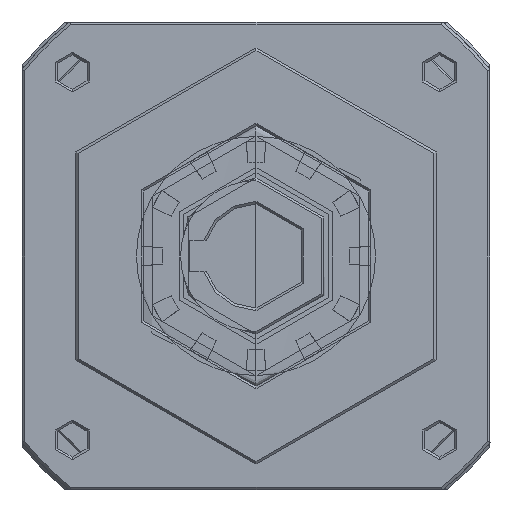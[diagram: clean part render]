
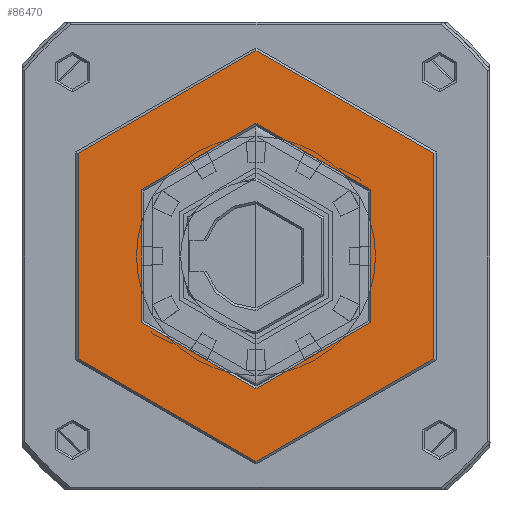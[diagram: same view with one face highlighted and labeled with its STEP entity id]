
A CAD part, left-side view. The second image highlights one B-rep face of the part: STEP entity #86470.
In plain terms, the highlighted planar face has unit normal (-1, 0, 0).
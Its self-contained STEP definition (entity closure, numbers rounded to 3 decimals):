
#1799 = FACE_BOUND ( 'NONE', #32390, .T. ) ;
#3466 = ORIENTED_EDGE ( 'NONE', *, *, #87627, .T. ) ;
#15089 = DIRECTION ( 'NONE',  ( 1., 0., 0. ) ) ;
#15307 = VERTEX_POINT ( 'NONE', #83465 ) ;
#15360 = DIRECTION ( 'NONE',  ( 0., 0., 1. ) ) ;
#17445 = DIRECTION ( 'NONE',  ( 0., 0., -1. ) ) ;
#21182 = VERTEX_POINT ( 'NONE', #49345 ) ;
#21690 = ORIENTED_EDGE ( 'NONE', *, *, #45684, .T. ) ;
#23059 = DIRECTION ( 'NONE',  ( 0., 0., 1. ) ) ;
#25922 = CARTESIAN_POINT ( 'NONE',  ( 0., 0., -25.5 ) ) ;
#30158 = DIRECTION ( 'NONE',  ( 1., 0., 0. ) ) ;
#30341 = DIRECTION ( 'NONE',  ( 1., 0., 0. ) ) ;
#31393 = AXIS2_PLACEMENT_3D ( 'NONE', #55864, #15089, #15360 ) ;
#32390 = EDGE_LOOP ( 'NONE', ( #3466, #21690 ) ) ;
#33800 = EDGE_CURVE ( 'NONE', #15307, #73588, #86429, .T. ) ;
#34127 = CIRCLE ( 'NONE', #48007, 39.5 ) ;
#34340 = ORIENTED_EDGE ( 'NONE', *, *, #33800, .F. ) ;
#37394 = CARTESIAN_POINT ( 'NONE',  ( 0., 0., 0. ) ) ;
#37898 = CARTESIAN_POINT ( 'NONE',  ( 0., 0., 0. ) ) ;
#41276 = EDGE_CURVE ( 'NONE', #73588, #15307, #34127, .T. ) ;
#41888 = DIRECTION ( 'NONE',  ( 0., 0., -1. ) ) ;
#44762 = CARTESIAN_POINT ( 'NONE',  ( 0., 0., 0. ) ) ;
#45684 = EDGE_CURVE ( 'NONE', #82681, #21182, #52877, .T. ) ;
#48007 = AXIS2_PLACEMENT_3D ( 'NONE', #37898, #30341, #57775 ) ;
#49345 = CARTESIAN_POINT ( 'NONE',  ( 0., 0., 25.5 ) ) ;
#51507 = FACE_OUTER_BOUND ( 'NONE', #72904, .T. ) ;
#52877 = CIRCLE ( 'NONE', #58055, 25.5 ) ;
#55864 = CARTESIAN_POINT ( 'NONE',  ( 0., 0., 0. ) ) ;
#57775 = DIRECTION ( 'NONE',  ( 0., 0., -1. ) ) ;
#58055 = AXIS2_PLACEMENT_3D ( 'NONE', #44762, #78600, #23059 ) ;
#62032 = CIRCLE ( 'NONE', #31393, 25.5 ) ;
#63022 = AXIS2_PLACEMENT_3D ( 'NONE', #76299, #76889, #41888 ) ;
#64380 = AXIS2_PLACEMENT_3D ( 'NONE', #37394, #30158, #17445 ) ;
#68352 = ORIENTED_EDGE ( 'NONE', *, *, #41276, .F. ) ;
#72904 = EDGE_LOOP ( 'NONE', ( #68352, #34340 ) ) ;
#73588 = VERTEX_POINT ( 'NONE', #82397 ) ;
#76299 = CARTESIAN_POINT ( 'NONE',  ( 0., -39.974, 39.974 ) ) ;
#76889 = DIRECTION ( 'NONE',  ( 1., 0., 0. ) ) ;
#78600 = DIRECTION ( 'NONE',  ( 1., 0., 0. ) ) ;
#82397 = CARTESIAN_POINT ( 'NONE',  ( 0., 0., -39.5 ) ) ;
#82681 = VERTEX_POINT ( 'NONE', #25922 ) ;
#83465 = CARTESIAN_POINT ( 'NONE',  ( 0., 0., 39.5 ) ) ;
#83795 = PLANE ( 'NONE',  #63022 ) ;
#86429 = CIRCLE ( 'NONE', #64380, 39.5 ) ;
#86470 = ADVANCED_FACE ( 'NONE', ( #1799, #51507 ), #83795, .F. ) ;
#87627 = EDGE_CURVE ( 'NONE', #21182, #82681, #62032, .T. ) ;
